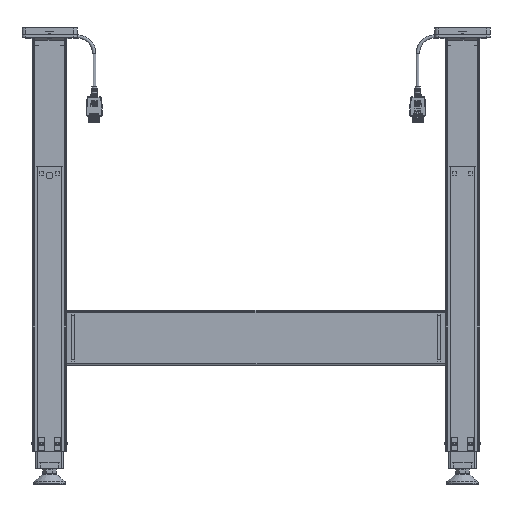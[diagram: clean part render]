
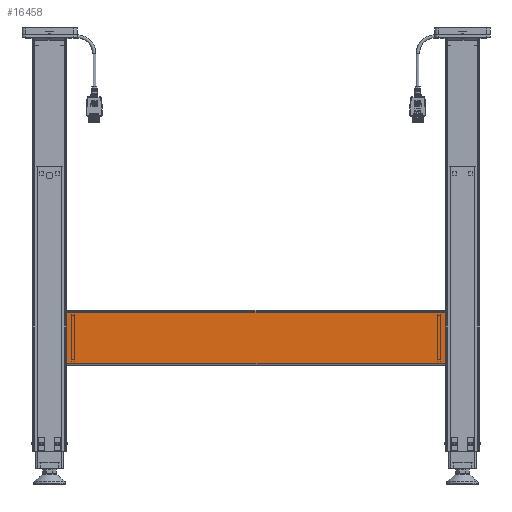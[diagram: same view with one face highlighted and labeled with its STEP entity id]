
A CAD part, front view. The second image highlights one B-rep face of the part: STEP entity #16458.
In plain terms, the highlighted planar face has unit normal (0, -1, 0) as drawn and (0, 0, 1) by its records, which use the part's own axes.
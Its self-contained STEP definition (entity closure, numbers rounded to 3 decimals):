
#5304=ORIENTED_EDGE('',*,*,#7921,.F.);
#5305=ORIENTED_EDGE('',*,*,#7920,.F.);
#5306=ORIENTED_EDGE('',*,*,#7922,.T.);
#5307=ORIENTED_EDGE('',*,*,#7923,.T.);
#7920=EDGE_CURVE('',#9537,#9536,#11049,.T.);
#7921=EDGE_CURVE('',#9536,#9538,#11050,.T.);
#7922=EDGE_CURVE('',#9537,#9539,#11051,.T.);
#7923=EDGE_CURVE('',#9539,#9538,#11052,.T.);
#9536=VERTEX_POINT('',#33998);
#9537=VERTEX_POINT('',#34000);
#9538=VERTEX_POINT('',#34004);
#9539=VERTEX_POINT('',#34006);
#11049=LINE('',#34001,#12445);
#11050=LINE('',#34003,#12446);
#11051=LINE('',#34005,#12447);
#11052=LINE('',#34007,#12448);
#12445=VECTOR('',#27233,1000.);
#12446=VECTOR('',#27236,1000.);
#12447=VECTOR('',#27237,1000.);
#12448=VECTOR('',#27238,1000.);
#13500=EDGE_LOOP('',(#5304,#5305,#5306,#5307));
#14800=FACE_BOUND('',#13500,.T.);
#15650=PLANE('',#23067);
#16458=ADVANCED_FACE('',(#14800),#15650,.T.);
#23067=AXIS2_PLACEMENT_3D('',#34002,#27234,#27235);
#27233=DIRECTION('',(0.,-1.,0.));
#27234=DIRECTION('',(0.,0.,1.));
#27235=DIRECTION('',(1.,0.,0.));
#27236=DIRECTION('',(-1.,0.,0.));
#27237=DIRECTION('',(-1.,0.,0.));
#27238=DIRECTION('',(0.,-1.,0.));
#33998=CARTESIAN_POINT('',(38.,0.,25.));
#34000=CARTESIAN_POINT('',(38.,550.,25.));
#34001=CARTESIAN_POINT('',(38.,550.,25.));
#34002=CARTESIAN_POINT('',(38.,550.,25.));
#34003=CARTESIAN_POINT('',(38.,0.,25.));
#34004=CARTESIAN_POINT('',(-38.,0.,25.));
#34005=CARTESIAN_POINT('',(38.,550.,25.));
#34006=CARTESIAN_POINT('',(-38.,550.,25.));
#34007=CARTESIAN_POINT('',(-38.,550.,25.));
